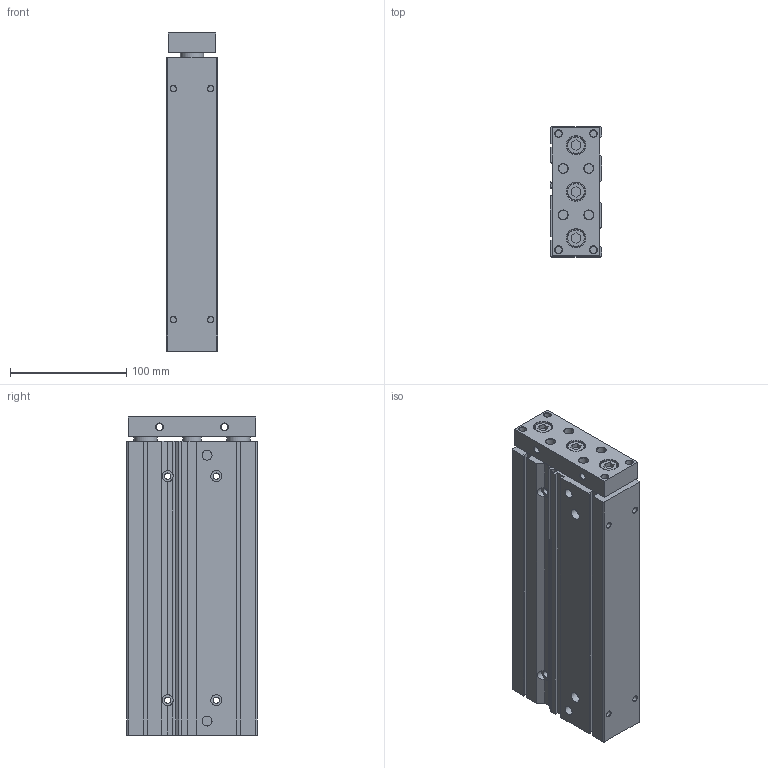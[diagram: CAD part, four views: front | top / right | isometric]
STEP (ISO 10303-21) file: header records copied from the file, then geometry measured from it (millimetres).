
FILE_DESCRIPTION((''),'2;1');
FILE_NAME('Z:\3D電子目錄\氣缸\TB(U)\TB(U)32\TB(U)32\TB32x200.stp','2011-09-22T10:51:11',('admin'),(''),'Autodesk Inventor 2012','Autodesk Inventor 2012','');
FILE_SCHEMA(('AUTOMOTIVE_DESIGN { 1 0 10303 214 1 1 1 1 }'));
Length unit declared in the file: millimetre
Products named in the file (1): TB32X250
Bounding box: 44 x 112 x 274 mm (x, y, z)
Volume: 1234457.9 mm3; surface area: 130195.7 mm2
Topology: 1 solids, 1 shells, 206 faces, 462 edges, 294 vertices
Faces by surface type: plane 110, cylinder 56, cone 37, torus 3
Full cylindrical faces by diameter (mm): 5 x8, 5.5 x4, 6 x10, 8 x4, 8.5 x2, 9.5 x8, 15 x3, 16 x4, 20 x4, 28 x2, 34 x1
Entity records: 5348 total; most frequent: DIRECTION 944, CARTESIAN_POINT 873, ORIENTED_EDGE 744, EDGE_CURVE 372, AXIS2_PLACEMENT_3D 365, EDGE_LOOP 364, VERTEX_POINT 294, VECTOR 214
